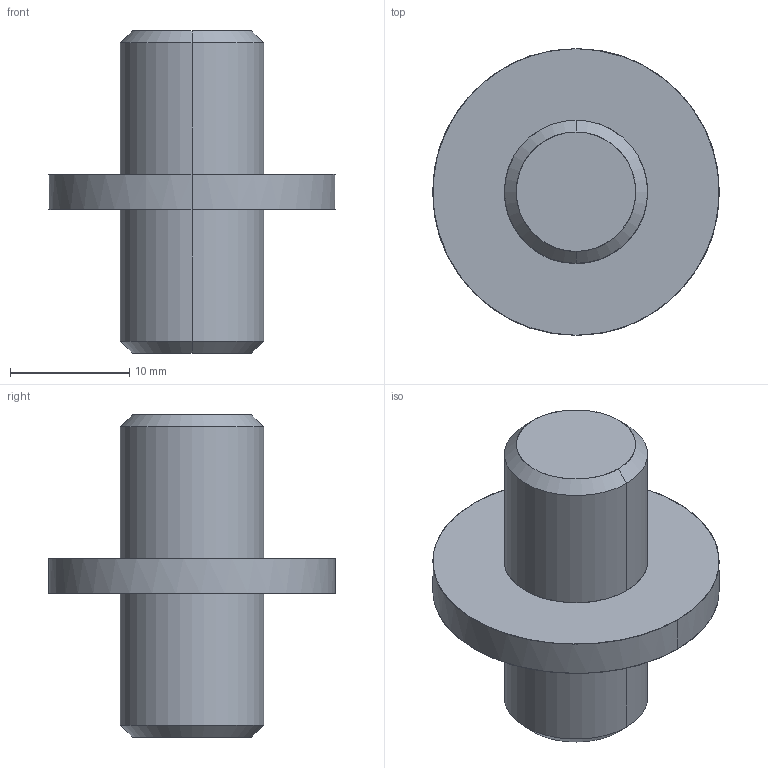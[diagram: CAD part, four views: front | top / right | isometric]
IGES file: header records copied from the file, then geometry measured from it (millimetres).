
Global section: file name: E:\UnigraphicsGraphicData\MISUMI_PRESS-PARTS\IGES\3d_sswc24_00824_r00.igs; native system: NX V5.0; preprocessor: UGS NX IGES V5.0; author: MISUMI; date: 20110105.163201; units: millimetre
Bounding box: 24 x 24 x 27 mm (x, y, z)
Surface area: 1991.7 mm2 (no closed solid volume)
Topology: 0 solids, 0 shells, 14 faces, 88 edges, 88 vertices
Faces by surface type: bspline 14
